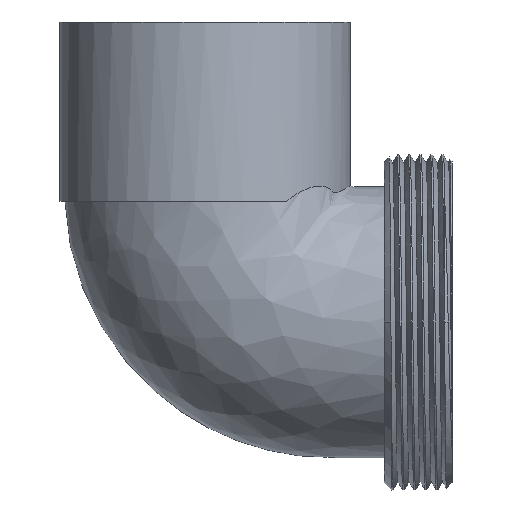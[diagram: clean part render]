
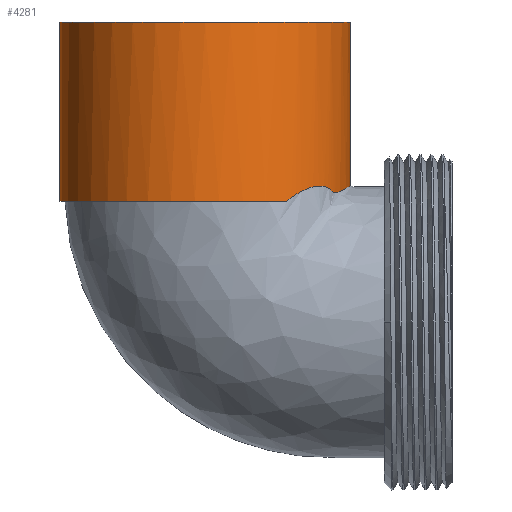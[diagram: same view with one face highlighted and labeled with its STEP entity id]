
A CAD part, top view. The second image highlights one B-rep face of the part: STEP entity #4281.
In plain terms, the highlighted cylindrical face has radius 30 mm (diameter 60 mm), a partial arc.
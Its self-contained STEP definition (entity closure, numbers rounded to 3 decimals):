
#2709 = CARTESIAN_POINT ( 'NONE',  ( 30., 28.268, 0. ) ) ;
#2710 = B_SPLINE_CURVE_WITH_KNOTS ( 'NONE', 3,
 ( #2778, #2777, #2776, #2775, #2774, #2773, #2772, #2771, #2770, #2769, #2768, #2767, #2766, #2765, #2764, #2763, #2762, #2761, #2760, #2759, #2758, #2757, #2756, #2755, #2754, #2753, #2752, #2751, #2750, #2749, #2748, #2747, #2746, #2745, #2744, #2743, #2742, #2741 ),
 .UNSPECIFIED., .F., .F.,
 ( 4, 2, 2, 2, 2, 2, 2, 2, 2, 2, 2, 2, 2, 2, 2, 2, 2, 2, 4 ),
 ( 0.03, 0.033, 0.035, 0.037, 0.039, 0.04, 0.042, 0.043, 0.044, 0.044, 0.044, 0.046, 0.048, 0.048, 0.049, 0.051, 0.053, 0.055, 0.058 ),
 .UNSPECIFIED. ) ;
#2711 = CARTESIAN_POINT ( 'NONE',  ( 16.827, 25., 24.837 ) ) ;
#2712 = DIRECTION ( 'NONE',  ( -1., 0., 0. ) ) ;
#2713 = DIRECTION ( 'NONE',  ( 0., 1., 0. ) ) ;
#2714 = CARTESIAN_POINT ( 'NONE',  ( 0., 62., 0. ) ) ;
#2715 = AXIS2_PLACEMENT_3D ( 'NONE', #2714, #2713, #2712 ) ;
#2716 = CYLINDRICAL_SURFACE ( 'NONE', #2715, 30. ) ;
#2717 = FACE_OUTER_BOUND ( 'NONE', #4282, .T. ) ;
#2737 = DIRECTION ( 'NONE',  ( 0., 1., 0. ) ) ;
#2738 = VECTOR ( 'NONE', #2737, 1000. ) ;
#2739 = CARTESIAN_POINT ( 'NONE',  ( 30., 62., 0. ) ) ;
#2740 = LINE ( 'NONE', #2739, #2738 ) ;
#2741 = CARTESIAN_POINT ( 'NONE',  ( 16.827, 25., 24.837 ) ) ;
#2742 = CARTESIAN_POINT ( 'NONE',  ( 17.704, 25.716, 24.242 ) ) ;
#2743 = CARTESIAN_POINT ( 'NONE',  ( 18.592, 26.319, 23.573 ) ) ;
#2744 = CARTESIAN_POINT ( 'NONE',  ( 19.922, 27.055, 22.438 ) ) ;
#2745 = CARTESIAN_POINT ( 'NONE',  ( 20.366, 27.273, 22.037 ) ) ;
#2746 = CARTESIAN_POINT ( 'NONE',  ( 21.248, 27.645, 21.187 ) ) ;
#2747 = CARTESIAN_POINT ( 'NONE',  ( 21.679, 27.796, 20.746 ) ) ;
#2748 = CARTESIAN_POINT ( 'NONE',  ( 22.522, 28.021, 19.828 ) ) ;
#2749 = CARTESIAN_POINT ( 'NONE',  ( 22.933, 28.095, 19.352 ) ) ;
#2750 = CARTESIAN_POINT ( 'NONE',  ( 23.534, 28.137, 18.608 ) ) ;
#2751 = CARTESIAN_POINT ( 'NONE',  ( 23.732, 28.14, 18.354 ) ) ;
#2752 = CARTESIAN_POINT ( 'NONE',  ( 24.118, 28.119, 17.845 ) ) ;
#2753 = CARTESIAN_POINT ( 'NONE',  ( 24.305, 28.096, 17.589 ) ) ;
#2754 = CARTESIAN_POINT ( 'NONE',  ( 24.851, 27.987, 16.817 ) ) ;
#2755 = CARTESIAN_POINT ( 'NONE',  ( 25.195, 27.86, 16.297 ) ) ;
#2756 = CARTESIAN_POINT ( 'NONE',  ( 25.841, 27.476, 15.252 ) ) ;
#2757 = CARTESIAN_POINT ( 'NONE',  ( 26.134, 27.224, 14.742 ) ) ;
#2758 = CARTESIAN_POINT ( 'NONE',  ( 26.434, 26.873, 14.187 ) ) ;
#2759 = CARTESIAN_POINT ( 'NONE',  ( 26.466, 26.828, 14.127 ) ) ;
#2760 = CARTESIAN_POINT ( 'NONE',  ( 26.535, 26.77, 13.996 ) ) ;
#2761 = CARTESIAN_POINT ( 'NONE',  ( 26.571, 26.752, 13.929 ) ) ;
#2762 = CARTESIAN_POINT ( 'NONE',  ( 26.677, 26.713, 13.724 ) ) ;
#2763 = CARTESIAN_POINT ( 'NONE',  ( 26.749, 26.705, 13.584 ) ) ;
#2764 = CARTESIAN_POINT ( 'NONE',  ( 26.96, 26.701, 13.163 ) ) ;
#2765 = CARTESIAN_POINT ( 'NONE',  ( 27.096, 26.726, 12.88 ) ) ;
#2766 = CARTESIAN_POINT ( 'NONE',  ( 27.489, 26.824, 12.03 ) ) ;
#2767 = CARTESIAN_POINT ( 'NONE',  ( 27.732, 26.923, 11.46 ) ) ;
#2768 = CARTESIAN_POINT ( 'NONE',  ( 28.181, 27.127, 10.307 ) ) ;
#2769 = CARTESIAN_POINT ( 'NONE',  ( 28.387, 27.235, 9.724 ) ) ;
#2770 = CARTESIAN_POINT ( 'NONE',  ( 28.763, 27.445, 8.548 ) ) ;
#2771 = CARTESIAN_POINT ( 'NONE',  ( 28.933, 27.547, 7.954 ) ) ;
#2772 = CARTESIAN_POINT ( 'NONE',  ( 29.237, 27.737, 6.753 ) ) ;
#2773 = CARTESIAN_POINT ( 'NONE',  ( 29.371, 27.826, 6.144 ) ) ;
#2774 = CARTESIAN_POINT ( 'NONE',  ( 29.599, 27.98, 4.927 ) ) ;
#2775 = CARTESIAN_POINT ( 'NONE',  ( 29.694, 28.047, 4.316 ) ) ;
#2776 = CARTESIAN_POINT ( 'NONE',  ( 29.923, 28.209, 2.477 ) ) ;
#2777 = CARTESIAN_POINT ( 'NONE',  ( 30., 28.268, 1.243 ) ) ;
#2778 = CARTESIAN_POINT ( 'NONE',  ( 30., 28.268, 0. ) ) ;
#3893 = DIRECTION ( 'NONE',  ( -1., 0., 0. ) ) ;
#3894 = DIRECTION ( 'NONE',  ( 0., 1., 0. ) ) ;
#3895 = CARTESIAN_POINT ( 'NONE',  ( 0., 25., 0. ) ) ;
#3896 = AXIS2_PLACEMENT_3D ( 'NONE', #3895, #3894, #3893 ) ;
#3897 = CIRCLE ( 'NONE', #3896, 30. ) ;
#3898 = DIRECTION ( 'NONE',  ( 0., 1., 0. ) ) ;
#3899 = VECTOR ( 'NONE', #3898, 1000. ) ;
#3900 = CARTESIAN_POINT ( 'NONE',  ( -30., 62., 0. ) ) ;
#3901 = LINE ( 'NONE', #3900, #3899 ) ;
#3902 = CARTESIAN_POINT ( 'NONE',  ( -30., 25., 0. ) ) ;
#3957 = DIRECTION ( 'NONE',  ( -1., 0., 0. ) ) ;
#3958 = DIRECTION ( 'NONE',  ( 0., 1., 0. ) ) ;
#3959 = CARTESIAN_POINT ( 'NONE',  ( 0., 62., 0. ) ) ;
#3960 = AXIS2_PLACEMENT_3D ( 'NONE', #3959, #3958, #3957 ) ;
#3961 = CIRCLE ( 'NONE', #3960, 30. ) ;
#3962 = CARTESIAN_POINT ( 'NONE',  ( -30., 62., 0. ) ) ;
#3963 = CARTESIAN_POINT ( 'NONE',  ( 30., 62., 0. ) ) ;
#4220 = VERTEX_POINT ( 'NONE', #3963 ) ;
#4221 = ORIENTED_EDGE ( 'NONE', *, *, #4222, .F. ) ;
#4222 = EDGE_CURVE ( 'NONE', #4223, #4220, #3961, .T. ) ;
#4223 = VERTEX_POINT ( 'NONE', #3962 ) ;
#4224 = ORIENTED_EDGE ( 'NONE', *, *, #4226, .F. ) ;
#4225 = VERTEX_POINT ( 'NONE', #3902 ) ;
#4226 = EDGE_CURVE ( 'NONE', #4225, #4223, #3901, .T. ) ;
#4227 = ORIENTED_EDGE ( 'NONE', *, *, #4228, .T. ) ;
#4228 = EDGE_CURVE ( 'NONE', #4225, #4286, #3897, .T. ) ;
#4281 = ADVANCED_FACE ( 'NONE', ( #2717 ), #2716, .T. ) ;
#4282 = EDGE_LOOP ( 'NONE', ( #4283, #4287, #4221, #4224, #4227 ) ) ;
#4283 = ORIENTED_EDGE ( 'NONE', *, *, #4284, .F. ) ;
#4284 = EDGE_CURVE ( 'NONE', #4285, #4286, #2710, .T. ) ;
#4285 = VERTEX_POINT ( 'NONE', #2709 ) ;
#4286 = VERTEX_POINT ( 'NONE', #2711 ) ;
#4287 = ORIENTED_EDGE ( 'NONE', *, *, #4288, .T. ) ;
#4288 = EDGE_CURVE ( 'NONE', #4285, #4220, #2740, .T. ) ;
